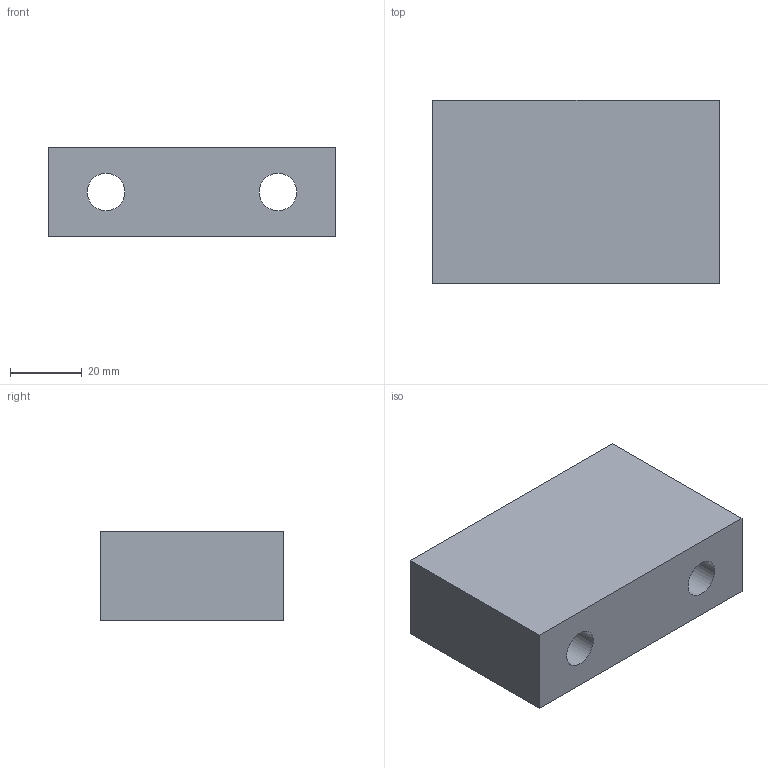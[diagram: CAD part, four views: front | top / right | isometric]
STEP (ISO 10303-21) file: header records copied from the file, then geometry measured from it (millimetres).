
FILE_DESCRIPTION(/* description */ ('STEP AP214'),/* implementation_level */ '2;1');
FILE_NAME(/* name */ 'F1321080025',/* time_stamp */ '2024-09-18T15:21:41+02:00',/* author */ ('License CC BY-ND 4.0'),/* organization */ ('CADENAS'),/* preprocessor_version */ 'ST-DEVELOPER v19.3',/* originating_system */ 'PARTsolutions',/* authorisation */ ' ');
FILE_SCHEMA (('AUTOMOTIVE_DESIGN {1 0 10303 214 3 1 1}'));
Length unit declared in the file: millimetre
Products named in the file (1): F1321080025
Bounding box: 80 x 51.1 x 25 mm (x, y, z)
Volume: 90551.3 mm3; surface area: 18170.6 mm2
Topology: 1 solids, 1 shells, 12 faces, 24 edges, 16 vertices
Faces by surface type: plane 8, cylinder 4
Full cylindrical faces by diameter (mm): 10.5 x2, 16.5 x2
Entity records: 334 total; most frequent: DIRECTION 54, CARTESIAN_POINT 49, ORIENTED_EDGE 40, EDGE_LOOP 22, FACE_BOUND 22, AXIS2_PLACEMENT_3D 21, EDGE_CURVE 20, VERTEX_POINT 16
